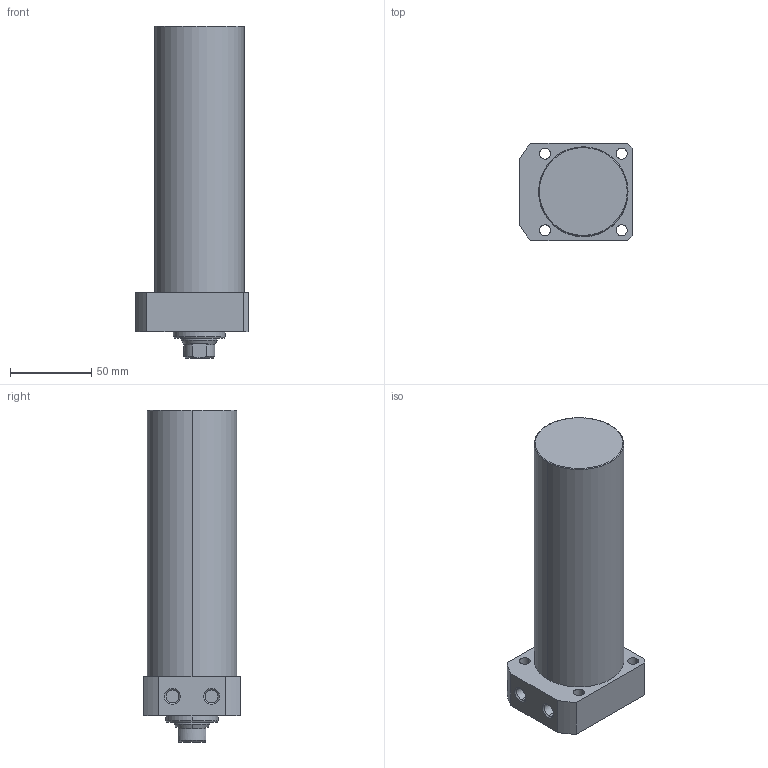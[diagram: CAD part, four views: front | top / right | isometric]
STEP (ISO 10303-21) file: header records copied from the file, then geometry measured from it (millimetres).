
FILE_DESCRIPTION (( 'STEP AP203' ), '1' );
FILE_NAME ('CLLR-055CA-135.STEP', '2019-12-17T11:43:44', ( '' ), ( '' ), 'SwSTEP 2.0', 'SolidWorks 2015', '' );
FILE_SCHEMA (( 'CONFIG_CONTROL_DESIGN' ));
Length unit declared in the file: millimetre
Products named in the file (1): CLLR-055CA-135
Bounding box: 69 x 60 x 204 mm (x, y, z)
Volume: 487263.5 mm3; surface area: 46624.2 mm2
Topology: 1 solids, 1 shells, 65 faces, 150 edges, 93 vertices
Faces by surface type: cylinder 29, plane 19, cone 15, torus 2
Entity records: 1959 total; most frequent: DIRECTION 348, CARTESIAN_POINT 347, ORIENTED_EDGE 296, EDGE_CURVE 148, AXIS2_PLACEMENT_3D 142, VERTEX_POINT 93, EDGE_LOOP 81, CIRCLE 76
